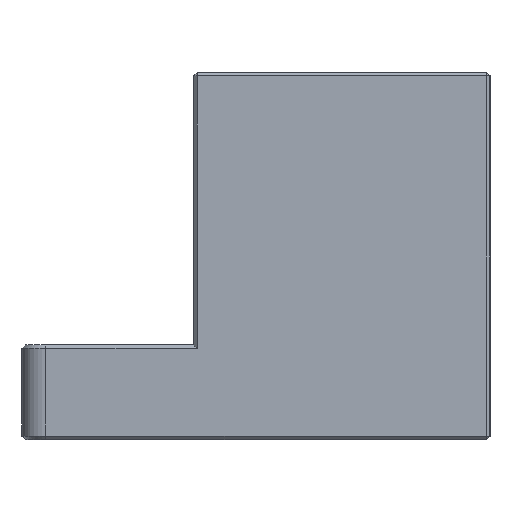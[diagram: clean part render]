
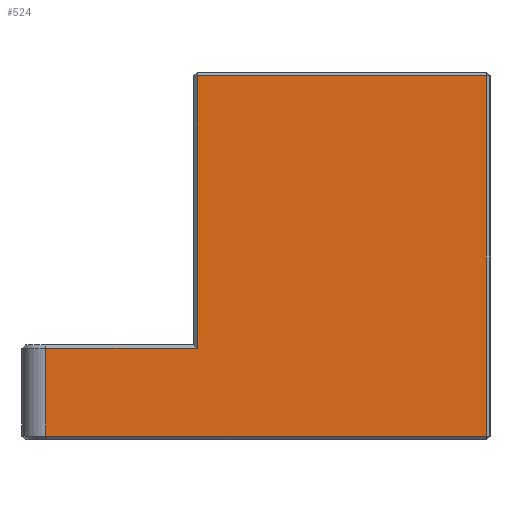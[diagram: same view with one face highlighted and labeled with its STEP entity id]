
A CAD part, left-side view. The second image highlights one B-rep face of the part: STEP entity #524.
In plain terms, the highlighted planar face has unit normal (-1, 0, 0).
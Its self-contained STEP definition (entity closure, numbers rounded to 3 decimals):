
#4 = LINE ( 'NONE', #187, #1436 ) ;
#11 = DIRECTION ( 'NONE',  ( 0., 0., -1. ) ) ;
#24 = ORIENTED_EDGE ( 'NONE', *, *, #378, .T. ) ;
#28 = EDGE_CURVE ( 'NONE', #31, #843, #1260, .T. ) ;
#31 = VERTEX_POINT ( 'NONE', #2448 ) ;
#39 = VECTOR ( 'NONE', #2046, 1000. ) ;
#65 = EDGE_CURVE ( 'NONE', #1570, #1287, #4, .T. ) ;
#143 = CARTESIAN_POINT ( 'NONE',  ( -28., 25., -30.7 ) ) ;
#184 = DIRECTION ( 'NONE',  ( 1., 0., 0. ) ) ;
#187 = CARTESIAN_POINT ( 'NONE',  ( -28., 12.5, -0.3 ) ) ;
#235 = CARTESIAN_POINT ( 'NONE',  ( -28., 12.5, -23.3 ) ) ;
#372 = VERTEX_POINT ( 'NONE', #143 ) ;
#378 = EDGE_CURVE ( 'NONE', #2309, #1570, #1177, .T. ) ;
#462 = ORIENTED_EDGE ( 'NONE', *, *, #2137, .T. ) ;
#524 = ADVANCED_FACE ( 'NONE', ( #622 ), #1230, .F. ) ;
#605 = CARTESIAN_POINT ( 'NONE',  ( -28., 12.5, -35. ) ) ;
#622 = FACE_OUTER_BOUND ( 'NONE', #1569, .T. ) ;
#660 = EDGE_CURVE ( 'NONE', #372, #2309, #2513, .T. ) ;
#714 = DIRECTION ( 'NONE',  ( 0., -1., 0. ) ) ;
#788 = DIRECTION ( 'NONE',  ( 0., 0., 1. ) ) ;
#843 = VERTEX_POINT ( 'NONE', #1520 ) ;
#1022 = DIRECTION ( 'NONE',  ( 0., 1., 0. ) ) ;
#1069 = VECTOR ( 'NONE', #1833, 1000. ) ;
#1177 = LINE ( 'NONE', #2018, #2228 ) ;
#1203 = CARTESIAN_POINT ( 'NONE',  ( -28., 12.2, -23. ) ) ;
#1230 = PLANE ( 'NONE',  #2528 ) ;
#1242 = CARTESIAN_POINT ( 'NONE',  ( -28., -12.2, -0.3 ) ) ;
#1260 = LINE ( 'NONE', #235, #2506 ) ;
#1282 = CARTESIAN_POINT ( 'NONE',  ( -28., -12.5, -30.7 ) ) ;
#1287 = VERTEX_POINT ( 'NONE', #1373 ) ;
#1364 = EDGE_CURVE ( 'NONE', #1287, #31, #1440, .T. ) ;
#1373 = CARTESIAN_POINT ( 'NONE',  ( -28., 12.2, -0.3 ) ) ;
#1436 = VECTOR ( 'NONE', #1022, 1000. ) ;
#1440 = LINE ( 'NONE', #1203, #1069 ) ;
#1454 = LINE ( 'NONE', #2338, #39 ) ;
#1520 = CARTESIAN_POINT ( 'NONE',  ( -28., 25., -23.3 ) ) ;
#1569 = EDGE_LOOP ( 'NONE', ( #2427, #2086, #462, #1688, #24, #2534 ) ) ;
#1570 = VERTEX_POINT ( 'NONE', #1242 ) ;
#1688 = ORIENTED_EDGE ( 'NONE', *, *, #660, .T. ) ;
#1833 = DIRECTION ( 'NONE',  ( 0., 0., -1. ) ) ;
#1865 = DIRECTION ( 'NONE',  ( 0., 1., 0. ) ) ;
#1936 = CARTESIAN_POINT ( 'NONE',  ( -28., -12.2, -30.7 ) ) ;
#2018 = CARTESIAN_POINT ( 'NONE',  ( -28., -12.2, -35. ) ) ;
#2046 = DIRECTION ( 'NONE',  ( 0., 0., -1. ) ) ;
#2086 = ORIENTED_EDGE ( 'NONE', *, *, #28, .T. ) ;
#2137 = EDGE_CURVE ( 'NONE', #843, #372, #1454, .T. ) ;
#2228 = VECTOR ( 'NONE', #788, 1000. ) ;
#2309 = VERTEX_POINT ( 'NONE', #1936 ) ;
#2338 = CARTESIAN_POINT ( 'NONE',  ( -28., 25., -31. ) ) ;
#2427 = ORIENTED_EDGE ( 'NONE', *, *, #1364, .T. ) ;
#2448 = CARTESIAN_POINT ( 'NONE',  ( -28., 12.2, -23.3 ) ) ;
#2506 = VECTOR ( 'NONE', #1865, 1000. ) ;
#2513 = LINE ( 'NONE', #1282, #2659 ) ;
#2528 = AXIS2_PLACEMENT_3D ( 'NONE', #605, #184, #11 ) ;
#2534 = ORIENTED_EDGE ( 'NONE', *, *, #65, .T. ) ;
#2659 = VECTOR ( 'NONE', #714, 1000. ) ;
